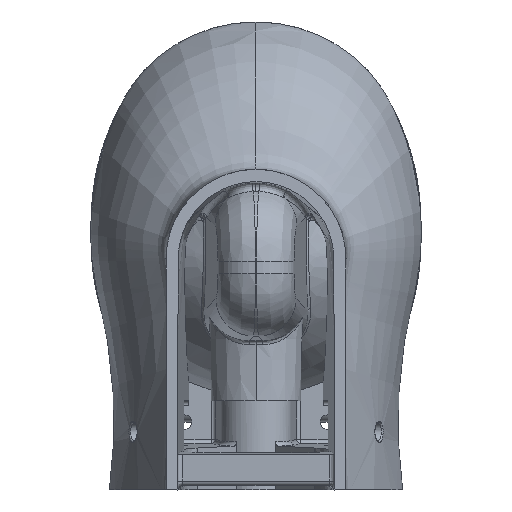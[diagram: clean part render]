
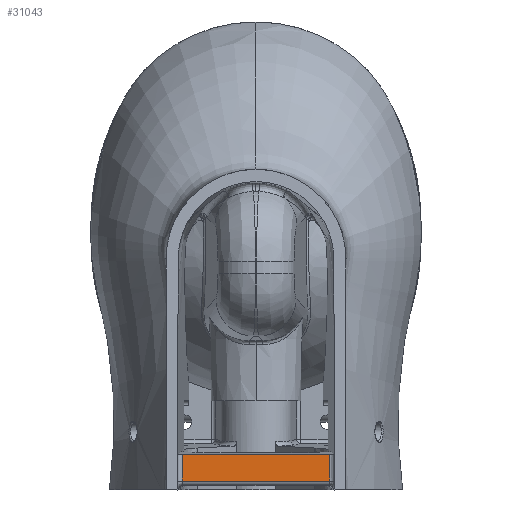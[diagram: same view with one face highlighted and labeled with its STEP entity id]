
A CAD part, front view. The second image highlights one B-rep face of the part: STEP entity #31043.
In plain terms, the highlighted planar face has unit normal (0, -1, 0).
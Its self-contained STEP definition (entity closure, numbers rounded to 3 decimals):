
#1008 = VERTEX_POINT ( 'NONE', #1250 ) ;
#1250 = CARTESIAN_POINT ( 'NONE',  ( 82.535, -354., 40. ) ) ;
#2204 = VERTEX_POINT ( 'NONE', #41447 ) ;
#6066 = DIRECTION ( 'NONE',  ( 1., 0., 0. ) ) ;
#6917 = CARTESIAN_POINT ( 'NONE',  ( -82.535, -354., 10. ) ) ;
#7229 = EDGE_CURVE ( 'NONE', #1008, #2204, #35116, .T. ) ;
#7644 = LINE ( 'NONE', #16643, #13501 ) ;
#7787 = CARTESIAN_POINT ( 'NONE',  ( -82.535, -354., 23.333 ) ) ;
#10266 = LINE ( 'NONE', #46872, #40890 ) ;
#11419 = CARTESIAN_POINT ( 'NONE',  ( -82.535, -354., 36.667 ) ) ;
#12052 = CARTESIAN_POINT ( 'NONE',  ( -82.535, -354., 10. ) ) ;
#12498 = B_SPLINE_CURVE_WITH_KNOTS ( 'NONE', 3,
 ( #48898, #11419, #16214, #15620, #7787, #44393, #6917 ),
 .UNSPECIFIED., .F., .F.,
 ( 4, 3, 4 ),
 ( 0., 0.01, 0.03 ),
 .UNSPECIFIED. ) ;
#13501 = VECTOR ( 'NONE', #34661, 1000. ) ;
#14974 = EDGE_CURVE ( 'NONE', #1008, #15697, #7644, .T. ) ;
#15620 = CARTESIAN_POINT ( 'NONE',  ( -82.535, -354., 30. ) ) ;
#15697 = VERTEX_POINT ( 'NONE', #45334 ) ;
#16214 = CARTESIAN_POINT ( 'NONE',  ( -82.535, -354., 33.333 ) ) ;
#16643 = CARTESIAN_POINT ( 'NONE',  ( 0., -354., 40. ) ) ;
#19030 = CARTESIAN_POINT ( 'NONE',  ( 82.535, -354., 36.667 ) ) ;
#22377 = ORIENTED_EDGE ( 'NONE', *, *, #14974, .T. ) ;
#23534 = CARTESIAN_POINT ( 'NONE',  ( 82.535, -354., 23.333 ) ) ;
#25613 = ORIENTED_EDGE ( 'NONE', *, *, #7229, .F. ) ;
#30049 = FACE_OUTER_BOUND ( 'NONE', #34415, .T. ) ;
#31043 = ADVANCED_FACE ( 'NONE', ( #30049 ), #57050, .T. ) ;
#34415 = EDGE_LOOP ( 'NONE', ( #55955, #40955, #25613, #22377 ) ) ;
#34661 = DIRECTION ( 'NONE',  ( -1., 0., 0. ) ) ;
#35116 = B_SPLINE_CURVE_WITH_KNOTS ( 'NONE', 3,
 ( #49936, #19030, #46618, #47214, #23534, #55312, #50822 ),
 .UNSPECIFIED., .F., .F.,
 ( 4, 3, 4 ),
 ( 0., 0.01, 0.03 ),
 .UNSPECIFIED. ) ;
#40890 = VECTOR ( 'NONE', #6066, 1000. ) ;
#40955 = ORIENTED_EDGE ( 'NONE', *, *, #43115, .T. ) ;
#41447 = CARTESIAN_POINT ( 'NONE',  ( 82.535, -354., 10. ) ) ;
#42665 = DIRECTION ( 'NONE',  ( 0., 0., -1. ) ) ;
#43115 = EDGE_CURVE ( 'NONE', #47310, #2204, #10266, .T. ) ;
#43565 = CARTESIAN_POINT ( 'NONE',  ( 0., -354., 145.119 ) ) ;
#44393 = CARTESIAN_POINT ( 'NONE',  ( -82.535, -354., 16.667 ) ) ;
#45334 = CARTESIAN_POINT ( 'NONE',  ( -82.535, -354., 40. ) ) ;
#46618 = CARTESIAN_POINT ( 'NONE',  ( 82.535, -354., 33.333 ) ) ;
#46872 = CARTESIAN_POINT ( 'NONE',  ( 0., -354., 10. ) ) ;
#47214 = CARTESIAN_POINT ( 'NONE',  ( 82.535, -354., 30. ) ) ;
#47310 = VERTEX_POINT ( 'NONE', #12052 ) ;
#48898 = CARTESIAN_POINT ( 'NONE',  ( -82.535, -354., 40. ) ) ;
#49670 = EDGE_CURVE ( 'NONE', #15697, #47310, #12498, .T. ) ;
#49936 = CARTESIAN_POINT ( 'NONE',  ( 82.535, -354., 40. ) ) ;
#50822 = CARTESIAN_POINT ( 'NONE',  ( 82.535, -354., 10. ) ) ;
#55312 = CARTESIAN_POINT ( 'NONE',  ( 82.535, -354., 16.667 ) ) ;
#55955 = ORIENTED_EDGE ( 'NONE', *, *, #49670, .T. ) ;
#56468 = DIRECTION ( 'NONE',  ( 0., -1., 0. ) ) ;
#56499 = AXIS2_PLACEMENT_3D ( 'NONE', #43565, #56468, #42665 ) ;
#57050 = PLANE ( 'NONE',  #56499 ) ;
